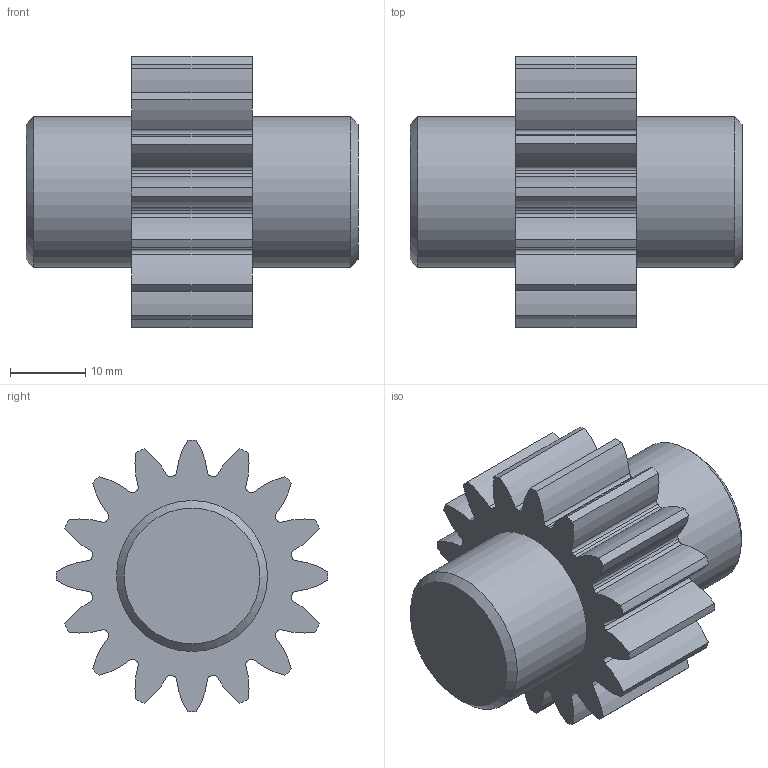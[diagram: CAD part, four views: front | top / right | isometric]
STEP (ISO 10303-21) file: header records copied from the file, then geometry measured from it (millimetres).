
FILE_DESCRIPTION(/* description */ (''),/* implementation_level */ '2;1');
FILE_NAME(/* name */ '',/* time_stamp */ '2025-10-31T16:05:05+09:00',/* author */ ('jhkim'),/* organization */ (''),/* preprocessor_version */ 'ST-DEVELOPER v20.1',/* originating_system */ 'Autodesk Inventor 2026',/* authorisation */ '');
FILE_SCHEMA (('AUTOMOTIVE_DESIGN { 1 0 10303 214 3 1 1 }'));
Length unit declared in the file: millimetre
Products named in the file (1): 스퍼기어
Bounding box: 44 x 36 x 36 mm (x, y, z)
Volume: 21477.9 mm3; surface area: 6330.1 mm2
Topology: 1 solids, 1 shells, 104 faces, 300 edges, 200 vertices
Faces by surface type: cylinder 98, plane 4, cone 2
Full cylindrical faces by diameter (mm): 20 x2
Entity records: 3587 total; most frequent: DIRECTION 710, CARTESIAN_POINT 605, ORIENTED_EDGE 600, AXIS2_PLACEMENT_3D 305, EDGE_CURVE 300, CIRCLE 200, VERTEX_POINT 200, EDGE_LOOP 106
